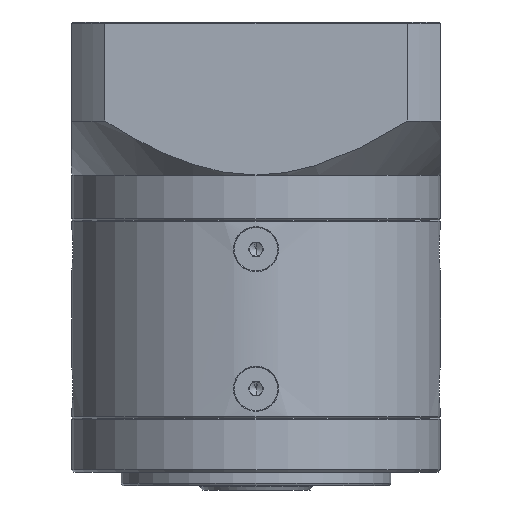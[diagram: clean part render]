
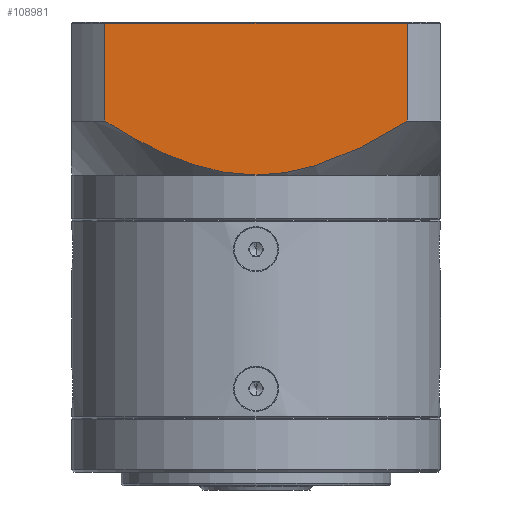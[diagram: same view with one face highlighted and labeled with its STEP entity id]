
A CAD part, front view. The second image highlights one B-rep face of the part: STEP entity #108981.
In plain terms, the highlighted planar face has unit normal (0, -1, 0).
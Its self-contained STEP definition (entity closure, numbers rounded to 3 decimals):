
#377 = VERTEX_POINT ( 'NONE', #62241 ) ;
#2712 = DIRECTION ( 'NONE',  ( 0., 0., -1. ) ) ;
#3008 = CARTESIAN_POINT ( 'NONE',  ( -127.36, -21.345, 23.075 ) ) ;
#3512 = CARTESIAN_POINT ( 'NONE',  ( -127.36, -21.345, 23.325 ) ) ;
#4231 = EDGE_CURVE ( 'NONE', #9607, #113191, #107883, .T. ) ;
#8214 = CARTESIAN_POINT ( 'NONE',  ( -73.706, -21.345, -8.772 ) ) ;
#8763 = CARTESIAN_POINT ( 'NONE',  ( -98.246, -21.345, -9.009 ) ) ;
#9562 = B_SPLINE_CURVE_WITH_KNOTS ( 'NONE', 3,
 ( #27159, #45965, #120715, #64775, #8763, #74189, #18160, #83597, #27563, #92966, #36983, #102359, #46355, #111715 ),
 .UNSPECIFIED., .F., .F.,
 ( 4, 2, 2, 2, 2, 2, 4 ),
 ( 0., 0.009, 0.013, 0.016, 0.018, 0.027, 0.036 ),
 .UNSPECIFIED. ) ;
#9607 = VERTEX_POINT ( 'NONE', #32947 ) ;
#9883 = DIRECTION ( 'NONE',  ( 0., 0., 1. ) ) ;
#11386 = CARTESIAN_POINT ( 'NONE',  ( -119.945, -21.345, 1.325 ) ) ;
#12980 = DIRECTION ( 'NONE',  ( 0., 0., 1. ) ) ;
#17622 = CARTESIAN_POINT ( 'NONE',  ( -75.901, -21.345, -9.368 ) ) ;
#18160 = CARTESIAN_POINT ( 'NONE',  ( -101.134, -21.345, -8.099 ) ) ;
#19251 = CARTESIAN_POINT ( 'NONE',  ( -119.945, -21.345, -10.675 ) ) ;
#24600 = VECTOR ( 'NONE', #2712, 1000. ) ;
#26002 = FACE_OUTER_BOUND ( 'NONE', #30144, .T. ) ;
#27016 = CARTESIAN_POINT ( 'NONE',  ( -80.322, -21.345, -10.333 ) ) ;
#27159 = CARTESIAN_POINT ( 'NONE',  ( -86.36, -21.345, -10.675 ) ) ;
#27563 = CARTESIAN_POINT ( 'NONE',  ( -103.269, -21.345, -7.329 ) ) ;
#27769 = VERTEX_POINT ( 'NONE', #11386 ) ;
#30144 = EDGE_LOOP ( 'NONE', ( #44762, #78220, #113193, #81394, #51279 ) ) ;
#32947 = CARTESIAN_POINT ( 'NONE',  ( -119.945, -21.345, 23.075 ) ) ;
#33303 = VECTOR ( 'NONE', #59046, 1000. ) ;
#36440 = CARTESIAN_POINT ( 'NONE',  ( -86.36, -21.345, -10.675 ) ) ;
#36983 = CARTESIAN_POINT ( 'NONE',  ( -109.492, -21.345, -4.653 ) ) ;
#42725 = CARTESIAN_POINT ( 'NONE',  ( -52.774, -21.345, 23.075 ) ) ;
#43154 = AXIS2_PLACEMENT_3D ( 'NONE', #3512, #68967, #12980 ) ;
#44762 = ORIENTED_EDGE ( 'NONE', *, *, #4231, .F. ) ;
#45439 = CARTESIAN_POINT ( 'NONE',  ( -57.914, -21.345, -1.824 ) ) ;
#45965 = CARTESIAN_POINT ( 'NONE',  ( -89.404, -21.345, -10.675 ) ) ;
#46355 = CARTESIAN_POINT ( 'NONE',  ( -117.393, -21.345, -0.292 ) ) ;
#49444 = LINE ( 'NONE', #96801, #24600 ) ;
#50735 = CARTESIAN_POINT ( 'NONE',  ( -86.36, -21.345, -10.675 ) ) ;
#51279 = ORIENTED_EDGE ( 'NONE', *, *, #103187, .F. ) ;
#54796 = CARTESIAN_POINT ( 'NONE',  ( -65.919, -21.345, -5.934 ) ) ;
#58743 = PLANE ( 'NONE',  #43154 ) ;
#59046 = DIRECTION ( 'NONE',  ( 1., 0., 0. ) ) ;
#62241 = CARTESIAN_POINT ( 'NONE',  ( -52.774, -21.345, 1.325 ) ) ;
#64241 = CARTESIAN_POINT ( 'NONE',  ( -71.534, -21.345, -8.099 ) ) ;
#64775 = CARTESIAN_POINT ( 'NONE',  ( -96.791, -21.345, -9.393 ) ) ;
#65423 = EDGE_CURVE ( 'NONE', #27769, #9607, #95151, .T. ) ;
#68967 = DIRECTION ( 'NONE',  ( 0., 1., 0. ) ) ;
#73649 = CARTESIAN_POINT ( 'NONE',  ( -74.437, -21.345, -8.982 ) ) ;
#74189 = CARTESIAN_POINT ( 'NONE',  ( -100.413, -21.345, -8.339 ) ) ;
#76687 = EDGE_CURVE ( 'NONE', #88883, #27769, #9562, .T. ) ;
#76720 = B_SPLINE_CURVE_WITH_KNOTS ( 'NONE', 3,
 ( #92040, #109172, #45439, #110793, #54796, #120178, #64241, #8214, #73649, #17622, #83050, #27016, #92442, #36440 ),
 .UNSPECIFIED., .F., .F.,
 ( 4, 2, 2, 2, 2, 2, 4 ),
 ( 0., 0.009, 0.018, 0.022, 0.025, 0.027, 0.036 ),
 .UNSPECIFIED. ) ;
#77075 = EDGE_CURVE ( 'NONE', #377, #88883, #76720, .T. ) ;
#78220 = ORIENTED_EDGE ( 'NONE', *, *, #65423, .F. ) ;
#81394 = ORIENTED_EDGE ( 'NONE', *, *, #77075, .F. ) ;
#83050 = CARTESIAN_POINT ( 'NONE',  ( -76.636, -21.345, -9.544 ) ) ;
#83597 = CARTESIAN_POINT ( 'NONE',  ( -102.562, -21.345, -7.595 ) ) ;
#88883 = VERTEX_POINT ( 'NONE', #50735 ) ;
#92040 = CARTESIAN_POINT ( 'NONE',  ( -52.774, -21.345, 1.325 ) ) ;
#92219 = VECTOR ( 'NONE', #9883, 1000. ) ;
#92442 = CARTESIAN_POINT ( 'NONE',  ( -83.315, -21.345, -10.675 ) ) ;
#92966 = CARTESIAN_POINT ( 'NONE',  ( -106.778, -21.345, -5.945 ) ) ;
#95151 = LINE ( 'NONE', #19251, #92219 ) ;
#96801 = CARTESIAN_POINT ( 'NONE',  ( -52.774, -21.345, 23.325 ) ) ;
#102359 = CARTESIAN_POINT ( 'NONE',  ( -114.8, -21.345, -1.827 ) ) ;
#103187 = EDGE_CURVE ( 'NONE', #113191, #377, #49444, .T. ) ;
#107883 = LINE ( 'NONE', #3008, #33303 ) ;
#108981 = ADVANCED_FACE ( 'NONE', ( #26002 ), #58743, .F. ) ;
#109172 = CARTESIAN_POINT ( 'NONE',  ( -55.324, -21.345, -0.291 ) ) ;
#110793 = CARTESIAN_POINT ( 'NONE',  ( -63.212, -21.345, -4.645 ) ) ;
#111715 = CARTESIAN_POINT ( 'NONE',  ( -119.945, -21.345, 1.325 ) ) ;
#113191 = VERTEX_POINT ( 'NONE', #42725 ) ;
#113193 = ORIENTED_EDGE ( 'NONE', *, *, #76687, .F. ) ;
#120178 = CARTESIAN_POINT ( 'NONE',  ( -70.114, -21.345, -7.592 ) ) ;
#120715 = CARTESIAN_POINT ( 'NONE',  ( -92.388, -21.345, -10.333 ) ) ;
